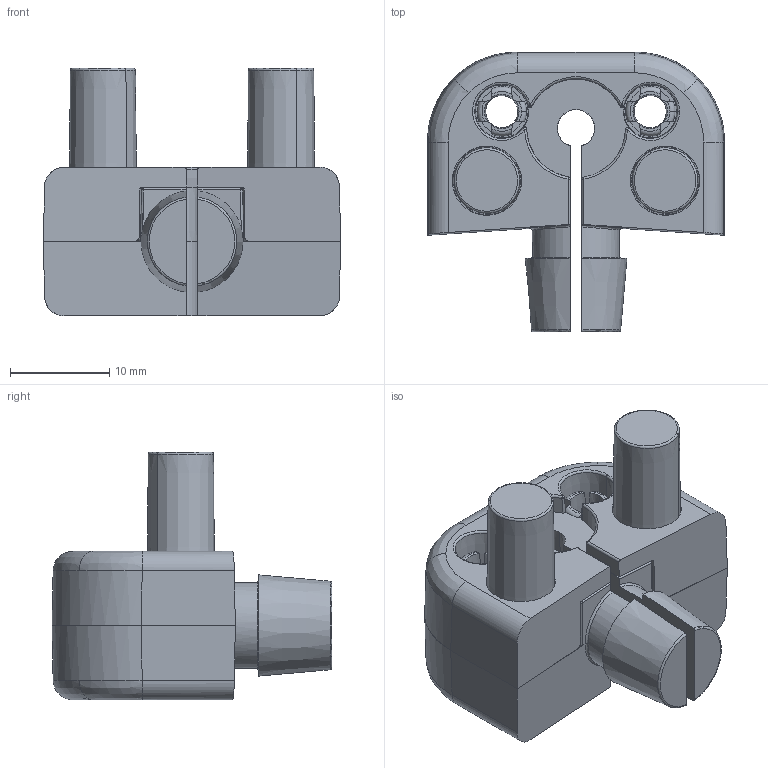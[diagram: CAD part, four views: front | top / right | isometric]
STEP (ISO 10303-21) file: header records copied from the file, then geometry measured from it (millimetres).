
FILE_DESCRIPTION (( 'STEP AP203' ), '1' );
FILE_NAME ('013.100.011.STEP', '2020-10-29T10:06:09', ( '' ), ( '' ), 'SwSTEP 2.0', 'SolidWorks 2018', '' );
FILE_SCHEMA (( 'CONFIG_CONTROL_DESIGN' ));
Length unit declared in the file: millimetre
Products named in the file (4): 013.100.011B; 013.100.011; 013.100.011C; 013.100.011A
Assembly tree (4 placements, depth 2):
  013.100.011
    013.100.011A
    013.100.011B
    013.100.011C  x2
Bounding box: 30 x 28.25 x 25 mm (x, y, z)
Volume: 6391.8 mm3; surface area: 6338.6 mm2
Topology: 4 solids, 4 shells, 265 faces, 676 edges, 426 vertices
Faces by surface type: plane 75, cone 65, cylinder 64, torus 30, bspline 21, sphere 10
Entity records: 8685 total; most frequent: CARTESIAN_POINT 2326, ORIENTED_EDGE 1290, DIRECTION 1239, EDGE_CURVE 645, AXIS2_PLACEMENT_3D 499, VERTEX_POINT 408, EDGE_LOOP 267, CIRCLE 264
